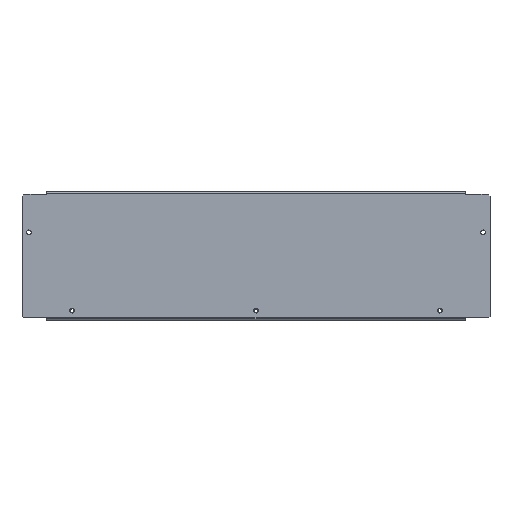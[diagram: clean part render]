
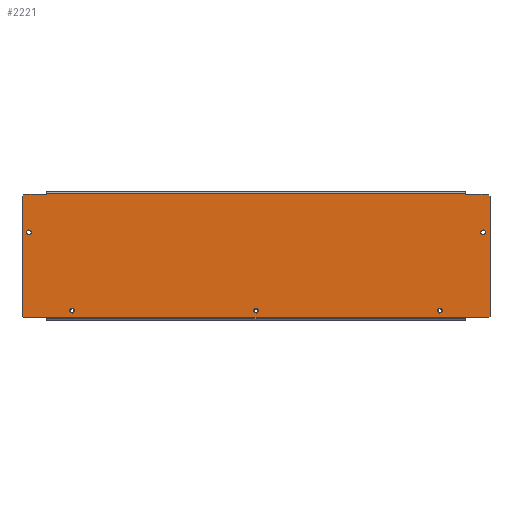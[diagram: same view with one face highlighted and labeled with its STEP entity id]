
A CAD part, top view. The second image highlights one B-rep face of the part: STEP entity #2221.
In plain terms, the highlighted planar face has unit normal (0, 0, 1).
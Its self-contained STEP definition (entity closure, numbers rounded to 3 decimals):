
#326=CARTESIAN_POINT(' ',(-2.75,-63.,0.));
#327=VERTEX_POINT(' ',#326);
#341=CARTESIAN_POINT(' ',(0.,-63.,0.));
#346=DIRECTION(' ',(0.,-0.,1.));
#351=DIRECTION(' ',(-1.,0.,0.));
#356=AXIS2_PLACEMENT_3D(' ',#341,#346,#351);
#361=CIRCLE('',#356,2.75);
#366=CARTESIAN_POINT(' ',(2.75,-63.,0.));
#367=VERTEX_POINT(' ',#366);
#371=EDGE_CURVE(' ',#327,#367,#361,.T.);
#1336=CARTESIAN_POINT(' ',(0.,-63.,0.));
#1341=DIRECTION(' ',(0.,0.,1.));
#1346=DIRECTION(' ',(1.,0.,0.));
#1351=AXIS2_PLACEMENT_3D(' ',#1336,#1341,#1346);
#1356=CIRCLE('',#1351,2.75);
#1361=EDGE_CURVE(' ',#367,#327,#1356,.T.);
#1386=DIRECTION(' ',(-0.,0.,1.));
#1391=CARTESIAN_POINT(' ',(-270.5,-71.5,0.));
#1396=DIRECTION(' ',(1.,0.,0.));
#1401=AXIS2_PLACEMENT_3D(' ',#1391,#1386,#1396);
#1406=PLANE('NONE',#1401);
#1411=CARTESIAN_POINT(' ',(-268.5,-71.5,0.));
#1416=DIRECTION(' ',(1.,0.,0.));
#1421=VECTOR(' ',#1416,1.);
#1426=LINE('',#1411,#1421);
#1431=CARTESIAN_POINT(' ',(-268.5,-71.5,0.));
#1432=VERTEX_POINT(' ',#1431);
#1436=CARTESIAN_POINT(' ',(268.5,-71.5,0.));
#1437=VERTEX_POINT(' ',#1436);
#1441=EDGE_CURVE(' ',#1432,#1437,#1426,.T.);
#1446=ORIENTED_EDGE(' ',*,*,#1441,.T.);
#1451=CARTESIAN_POINT(' ',(268.5,-71.5,0.));
#1456=DIRECTION(' ',(0.707,0.707,0.));
#1461=VECTOR(' ',#1456,1.);
#1466=LINE('',#1451,#1461);
#1471=CARTESIAN_POINT(' ',(270.5,-69.5,0.));
#1472=VERTEX_POINT(' ',#1471);
#1476=EDGE_CURVE(' ',#1437,#1472,#1466,.T.);
#1481=ORIENTED_EDGE(' ',*,*,#1476,.T.);
#1486=CARTESIAN_POINT(' ',(270.5,-69.5,0.));
#1491=DIRECTION(' ',(0.,1.,0.));
#1496=VECTOR(' ',#1491,1.);
#1501=LINE('',#1486,#1496);
#1506=CARTESIAN_POINT(' ',(270.5,69.5,0.));
#1507=VERTEX_POINT(' ',#1506);
#1511=EDGE_CURVE(' ',#1472,#1507,#1501,.T.);
#1516=ORIENTED_EDGE(' ',*,*,#1511,.T.);
#1521=CARTESIAN_POINT(' ',(270.5,69.5,0.));
#1526=DIRECTION(' ',(-0.707,0.707,0.));
#1531=VECTOR(' ',#1526,1.);
#1536=LINE('',#1521,#1531);
#1541=CARTESIAN_POINT(' ',(268.5,71.5,0.));
#1542=VERTEX_POINT(' ',#1541);
#1546=EDGE_CURVE(' ',#1507,#1542,#1536,.T.);
#1551=ORIENTED_EDGE(' ',*,*,#1546,.T.);
#1556=CARTESIAN_POINT(' ',(268.5,71.5,0.));
#1561=DIRECTION(' ',(-1.,0.,0.));
#1566=VECTOR(' ',#1561,1.);
#1571=LINE('',#1556,#1566);
#1576=CARTESIAN_POINT(' ',(242.,71.5,0.));
#1577=VERTEX_POINT(' ',#1576);
#1581=EDGE_CURVE(' ',#1542,#1577,#1571,.T.);
#1586=ORIENTED_EDGE(' ',*,*,#1581,.T.);
#1591=CARTESIAN_POINT(' ',(242.,72.4,0.));
#1596=DIRECTION(' ',(0.,-1.,0.));
#1601=VECTOR(' ',#1596,1.);
#1606=LINE('',#1591,#1601);
#1611=CARTESIAN_POINT(' ',(242.,72.4,0.));
#1612=VERTEX_POINT(' ',#1611);
#1616=EDGE_CURVE(' ',#1612,#1577,#1606,.T.);
#1621=ORIENTED_EDGE(' ',*,*,#1616,.F.);
#1626=CARTESIAN_POINT(' ',(242.,72.4,0.));
#1631=DIRECTION(' ',(-1.,0.,0.));
#1636=VECTOR(' ',#1631,1.);
#1641=LINE('',#1626,#1636);
#1646=CARTESIAN_POINT(' ',(-242.,72.4,0.));
#1647=VERTEX_POINT(' ',#1646);
#1651=EDGE_CURVE(' ',#1612,#1647,#1641,.T.);
#1656=ORIENTED_EDGE(' ',*,*,#1651,.T.);
#1661=CARTESIAN_POINT(' ',(-242.,72.4,0.));
#1666=DIRECTION(' ',(0.,-1.,0.));
#1671=VECTOR(' ',#1666,1.);
#1676=LINE('',#1661,#1671);
#1681=CARTESIAN_POINT(' ',(-242.,71.5,0.));
#1682=VERTEX_POINT(' ',#1681);
#1686=EDGE_CURVE(' ',#1647,#1682,#1676,.T.);
#1691=ORIENTED_EDGE(' ',*,*,#1686,.T.);
#1696=CARTESIAN_POINT(' ',(-242.,71.5,0.));
#1701=DIRECTION(' ',(-1.,0.,0.));
#1706=VECTOR(' ',#1701,1.);
#1711=LINE('',#1696,#1706);
#1716=CARTESIAN_POINT(' ',(-268.5,71.5,0.));
#1717=VERTEX_POINT(' ',#1716);
#1721=EDGE_CURVE(' ',#1682,#1717,#1711,.T.);
#1726=ORIENTED_EDGE(' ',*,*,#1721,.T.);
#1731=CARTESIAN_POINT(' ',(-268.5,71.5,0.));
#1736=DIRECTION(' ',(-0.707,-0.707,0.));
#1741=VECTOR(' ',#1736,1.);
#1746=LINE('',#1731,#1741);
#1751=CARTESIAN_POINT(' ',(-270.5,69.5,0.));
#1752=VERTEX_POINT(' ',#1751);
#1756=EDGE_CURVE(' ',#1717,#1752,#1746,.T.);
#1761=ORIENTED_EDGE(' ',*,*,#1756,.T.);
#1766=CARTESIAN_POINT(' ',(-270.5,69.5,0.));
#1771=DIRECTION(' ',(0.,-1.,0.));
#1776=VECTOR(' ',#1771,1.);
#1781=LINE('',#1766,#1776);
#1786=CARTESIAN_POINT(' ',(-270.5,-69.5,0.));
#1787=VERTEX_POINT(' ',#1786);
#1791=EDGE_CURVE(' ',#1752,#1787,#1781,.T.);
#1796=ORIENTED_EDGE(' ',*,*,#1791,.T.);
#1801=CARTESIAN_POINT(' ',(-270.5,-69.5,0.));
#1806=DIRECTION(' ',(0.707,-0.707,0.));
#1811=VECTOR(' ',#1806,1.);
#1816=LINE('',#1801,#1811);
#1821=EDGE_CURVE(' ',#1787,#1432,#1816,.T.);
#1826=ORIENTED_EDGE(' ',*,*,#1821,.T.);
#1831=EDGE_LOOP(' ',(#1446,#1481,#1516,#1551,#1586,#1621,#1656,#1691,#1726,#1761,#1796,#1826));
#1836=FACE_OUTER_BOUND(' ',#1831,.T.);
#1841=ORIENTED_EDGE(' ',*,*,#1361,.F.);
#1846=ORIENTED_EDGE(' ',*,*,#371,.F.);
#1851=EDGE_LOOP(' ',(#1841,#1846));
#1856=FACE_BOUND(' ',#1851,.T.);
#1861=CARTESIAN_POINT(' ',(-212.5,-63.,0.));
#1866=DIRECTION(' ',(0.,0.,1.));
#1871=DIRECTION(' ',(1.,0.,0.));
#1876=AXIS2_PLACEMENT_3D(' ',#1861,#1866,#1871);
#1881=CIRCLE('',#1876,2.75);
#1886=CARTESIAN_POINT(' ',(-209.75,-63.,0.));
#1887=VERTEX_POINT(' ',#1886);
#1891=CARTESIAN_POINT(' ',(-215.25,-63.,0.));
#1892=VERTEX_POINT(' ',#1891);
#1896=EDGE_CURVE(' ',#1887,#1892,#1881,.T.);
#1901=ORIENTED_EDGE(' ',*,*,#1896,.F.);
#1906=CARTESIAN_POINT(' ',(-212.5,-63.,0.));
#1911=DIRECTION(' ',(0.,-0.,1.));
#1916=DIRECTION(' ',(-1.,0.,0.));
#1921=AXIS2_PLACEMENT_3D(' ',#1906,#1911,#1916);
#1926=CIRCLE('',#1921,2.75);
#1931=EDGE_CURVE(' ',#1892,#1887,#1926,.T.);
#1936=ORIENTED_EDGE(' ',*,*,#1931,.F.);
#1941=EDGE_LOOP(' ',(#1901,#1936));
#1946=FACE_BOUND(' ',#1941,.T.);
#1951=CARTESIAN_POINT(' ',(262.5,27.5,0.));
#1956=DIRECTION(' ',(0.,0.,1.));
#1961=DIRECTION(' ',(1.,0.,0.));
#1966=AXIS2_PLACEMENT_3D(' ',#1951,#1956,#1961);
#1971=CIRCLE('',#1966,2.75);
#1976=CARTESIAN_POINT(' ',(265.25,27.5,0.));
#1977=VERTEX_POINT(' ',#1976);
#1981=CARTESIAN_POINT(' ',(259.75,27.5,0.));
#1982=VERTEX_POINT(' ',#1981);
#1986=EDGE_CURVE(' ',#1977,#1982,#1971,.T.);
#1991=ORIENTED_EDGE(' ',*,*,#1986,.F.);
#1996=CARTESIAN_POINT(' ',(262.5,27.5,0.));
#2001=DIRECTION(' ',(0.,-0.,1.));
#2006=DIRECTION(' ',(-1.,0.,0.));
#2011=AXIS2_PLACEMENT_3D(' ',#1996,#2001,#2006);
#2016=CIRCLE('',#2011,2.75);
#2021=EDGE_CURVE(' ',#1982,#1977,#2016,.T.);
#2026=ORIENTED_EDGE(' ',*,*,#2021,.F.);
#2031=EDGE_LOOP(' ',(#1991,#2026));
#2036=FACE_BOUND(' ',#2031,.T.);
#2041=CARTESIAN_POINT(' ',(-262.5,27.5,0.));
#2046=DIRECTION(' ',(0.,0.,1.));
#2051=DIRECTION(' ',(1.,0.,0.));
#2056=AXIS2_PLACEMENT_3D(' ',#2041,#2046,#2051);
#2061=CIRCLE('',#2056,2.75);
#2066=CARTESIAN_POINT(' ',(-259.75,27.5,0.));
#2067=VERTEX_POINT(' ',#2066);
#2071=CARTESIAN_POINT(' ',(-265.25,27.5,0.));
#2072=VERTEX_POINT(' ',#2071);
#2076=EDGE_CURVE(' ',#2067,#2072,#2061,.T.);
#2081=ORIENTED_EDGE(' ',*,*,#2076,.F.);
#2086=CARTESIAN_POINT(' ',(-262.5,27.5,0.));
#2091=DIRECTION(' ',(0.,-0.,1.));
#2096=DIRECTION(' ',(-1.,0.,0.));
#2101=AXIS2_PLACEMENT_3D(' ',#2086,#2091,#2096);
#2106=CIRCLE('',#2101,2.75);
#2111=EDGE_CURVE(' ',#2072,#2067,#2106,.T.);
#2116=ORIENTED_EDGE(' ',*,*,#2111,.F.);
#2121=EDGE_LOOP(' ',(#2081,#2116));
#2126=FACE_BOUND(' ',#2121,.T.);
#2131=CARTESIAN_POINT(' ',(212.5,-63.,0.));
#2136=DIRECTION(' ',(0.,0.,1.));
#2141=DIRECTION(' ',(1.,0.,0.));
#2146=AXIS2_PLACEMENT_3D(' ',#2131,#2136,#2141);
#2151=CIRCLE('',#2146,2.75);
#2156=CARTESIAN_POINT(' ',(215.25,-63.,0.));
#2157=VERTEX_POINT(' ',#2156);
#2161=CARTESIAN_POINT(' ',(209.75,-63.,0.));
#2162=VERTEX_POINT(' ',#2161);
#2166=EDGE_CURVE(' ',#2157,#2162,#2151,.T.);
#2171=ORIENTED_EDGE(' ',*,*,#2166,.F.);
#2176=CARTESIAN_POINT(' ',(212.5,-63.,0.));
#2181=DIRECTION(' ',(0.,-0.,1.));
#2186=DIRECTION(' ',(-1.,0.,0.));
#2191=AXIS2_PLACEMENT_3D(' ',#2176,#2181,#2186);
#2196=CIRCLE('',#2191,2.75);
#2201=EDGE_CURVE(' ',#2162,#2157,#2196,.T.);
#2206=ORIENTED_EDGE(' ',*,*,#2201,.F.);
#2211=EDGE_LOOP(' ',(#2171,#2206));
#2216=FACE_BOUND(' ',#2211,.T.);
#2221=ADVANCED_FACE('NONE',(#1836,#1856,#1946,#2036,#2126,#2216),#1406,.T.);
